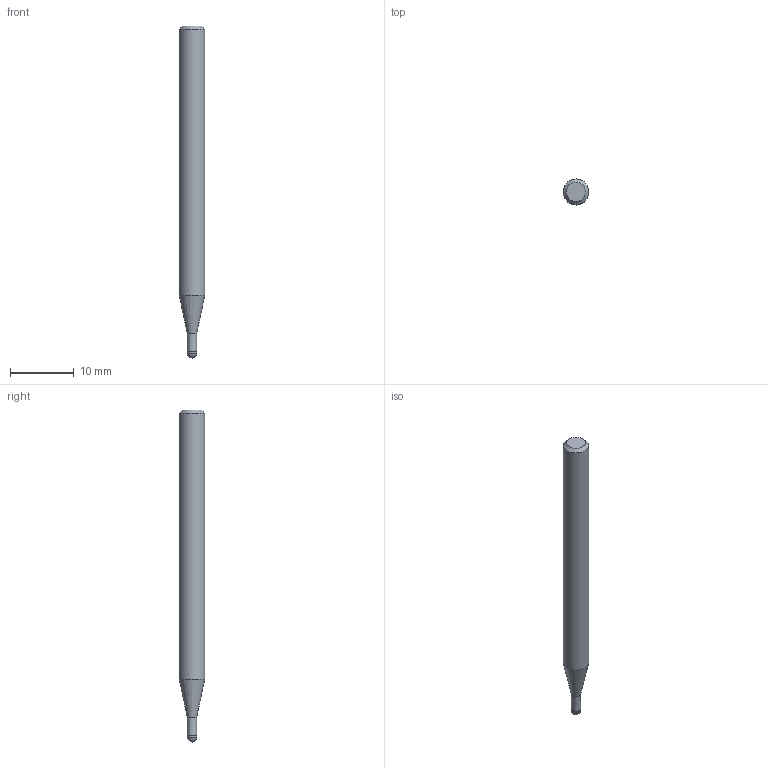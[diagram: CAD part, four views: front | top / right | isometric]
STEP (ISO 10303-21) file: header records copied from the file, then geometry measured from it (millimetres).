
FILE_DESCRIPTION((''),'2;1');
FILE_NAME('C:\Users\nsx150\AppData\Local\Temp\Mastercam 2021\LJSIDMOTM8\TEMP.step','2021-08-03T14:17:48',(''),(''),'STEP Write','Mastercam 2021 ... CNC Software, Inc.','');
FILE_SCHEMA(('AUTOMOTIVE_DESIGN'));
Length unit declared in the file: millimetre
Products named in the file (1): None
Bounding box: 4 x 4 x 52 mm (x, y, z)
Volume: 572.4 mm3; surface area: 612.3 mm2
Topology: 2 solids, 2 shells, 9 faces, 14 edges, 8 vertices
Faces by surface type: plane 3, cylinder 3, cone 2, sphere 1
Full cylindrical faces by diameter (mm): 1.45 x1, 1.5 x1, 4 x1
Entity records: 211 total; most frequent: DIRECTION 36, CARTESIAN_POINT 25, AXIS2_PLACEMENT_3D 18, ORIENTED_EDGE 14, EDGE_LOOP 14, STYLED_ITEM 12, ADVANCED_FACE 9, FACE_BOUND 8
